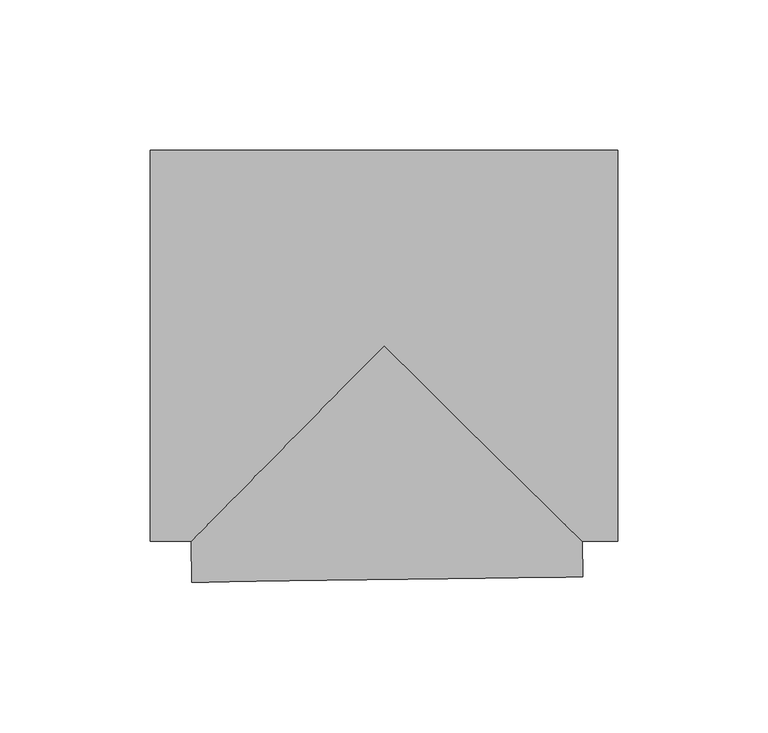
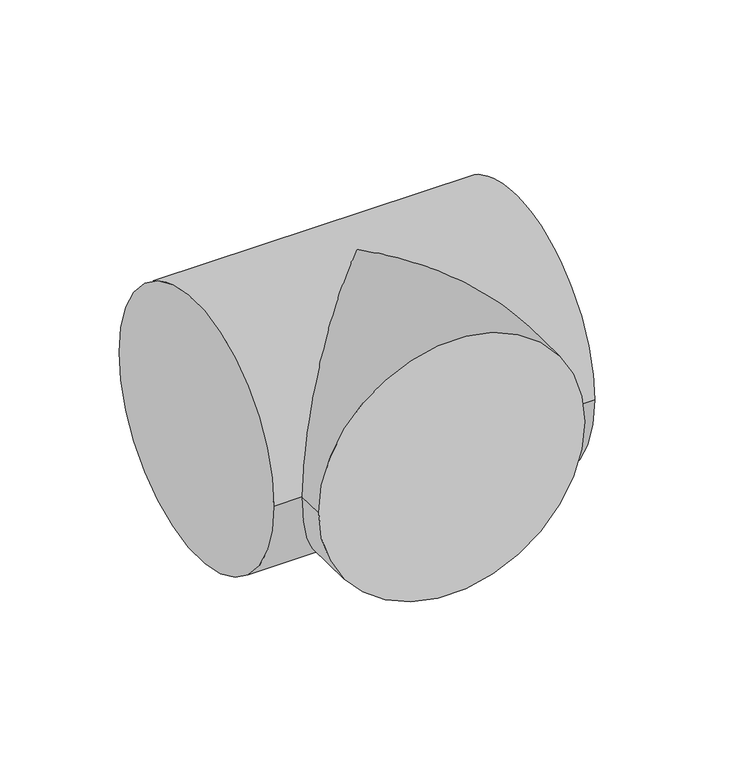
"""IFC4 building model written with IfcOpenShell, lengths in millimetres: pipe fitting geometry, M_Te - Genérica : Estándar."""

from ifc_helpers import new_model, si_unit, frame, origin, place, context, project, spatial, circle_curve, ellipse_curve, source, transform, mapped, element, save
from ifc_brep_helpers import plane_surface, cylinder_surface, advanced_brep


def pipe_fitting_4fffcfea(model_context):
    return source(origin(), model_context, "Body", "AdvancedBrep", [
        advanced_brep(
        [(-77.7875, -65.0875, 0.0), (-77.7875, 65.0875, 0.0), (77.7875, -65.0875, 0.0), (77.7875, 65.0875, 0.0), (-64.1800547, -65.0875, 0.0), (0.0, 0.0, 65.0875), (66.0077758, -65.0875, 0.0), (0.0, 0.0, -65.0875), (-63.9890182, -78.6936043, 0.0), (66.1731526, -76.8660633, 0.0)],
        [
            (0, 1, circle_curve(frame((-77.7875, 0.0, 0.0), z_axis=(-1.0, 0.0, 0.0), x_axis=(0.0, 1.0, 0.0)), 65.0875)),
            (1, 0, circle_curve(frame((-77.7875, 0.0, 0.0), z_axis=(-1.0, 0.0, 0.0), x_axis=(0.0, 1.0, 0.0)), 65.0875)),
            (2, 3, circle_curve(frame((77.7875, 0.0, 0.0), z_axis=(1.0, 0.0, 0.0), x_axis=(0.0, 1.0, 0.0)), 65.0875)),
            (3, 2, circle_curve(frame((77.7875, 0.0, 0.0), z_axis=(1.0, 0.0, 0.0), x_axis=(0.0, 1.0, 0.0)), 65.0875)),
            (0, 4),
            (4, 5, ellipse_curve(frame((0.0, 0.0, 0.0), z_axis=(-0.7120530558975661, 0.7021256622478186, 0.0), x_axis=(-0.7021256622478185, -0.7120530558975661, 0.0)), 91.4082167, 65.0875)),
            (5, 6, ellipse_curve(frame((0.0, 0.0, 0.0), z_axis=(0.7021256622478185, 0.7120530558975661, 0.0), x_axis=(-0.7120530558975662, 0.7021256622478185, 0.0)), 92.7006425, 65.0875)),
            (6, 2),
            (3, 1),
            (6, 7, ellipse_curve(frame((0.0, 0.0, 0.0), z_axis=(0.7021256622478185, 0.7120530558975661, 0.0), x_axis=(-0.7120530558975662, 0.7021256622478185, 0.0)), 92.7006425, 65.0875)),
            (7, 4, ellipse_curve(frame((0.0, 0.0, 0.0), z_axis=(-0.7120530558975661, 0.7021256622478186, 0.0), x_axis=(-0.7021256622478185, -0.7120530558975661, 0.0)), 91.4082167, 65.0875)),
            (8, 9, circle_curve(frame((1.0920672, -77.7798338, 0.0), z_axis=(0.014039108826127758, -0.999901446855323, 0.0), x_axis=(0.999901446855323, 0.014039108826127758, 0.0)), 65.0875)),
            (9, 8, circle_curve(frame((1.0920672, -77.7798338, 0.0), z_axis=(0.014039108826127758, -0.999901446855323, 0.0), x_axis=(0.999901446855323, 0.014039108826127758, 0.0)), 65.0875)),
            (9, 6),
            (4, 8),
        ],
        [
            plane_surface(frame((-77.7875, 0.0, 0.0), z_axis=(-1.0, 0.0, 0.0), x_axis=(0.0, 0.0, 1.0))),
            plane_surface(frame((77.7875, 0.0, 0.0), z_axis=(1.0, 0.0, 0.0), x_axis=(0.0, 0.0, 1.0))),
            cylinder_surface(frame((-77.7875, 0.0, 0.0), z_axis=(-1.0, 0.0, 0.0), x_axis=(0.0, 1.0, 0.0)), 65.0875),
            plane_surface(frame((1.0920672, -77.7798338, 0.0), z_axis=(0.014039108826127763, -0.999901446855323, 0.0), x_axis=(0.0, 0.0, 1.0))),
            cylinder_surface(frame((0.0, 0.0, 0.0), z_axis=(-0.014039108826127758, 0.999901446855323, 0.0), x_axis=(0.999901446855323, 0.014039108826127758, 0.0)), 65.0875),
        ],
        [
            (0, [[1, 2]]),
            (1, [[3, 4]]),
            (2, [[-1, 5, 6, 7, 8, -4, 9]]),
            (2, [[-2, -9, -3, -8, 10, 11, -5]]),
            (3, [[12, 13]]),
            (4, [[-13, 14, -7, -6, 15]]),
            (4, [[-12, -15, -11, -10, -14]]),
        ],
    ),
    ])


if __name__ == "__main__":
    model = new_model("IFC4")
    model_context = context("Model", 3, world=origin())
    ifc_project = project(units=[si_unit("LENGTHUNIT", "METRE", prefix="MILLI")], contexts=[model_context])
    site = spatial("IfcSite", under=ifc_project)
    building = spatial("IfcBuilding", under=site)
    placement = place(None, origin())
    pipe_fitting_shape = pipe_fitting_4fffcfea(model_context)
    element("IfcPipeFitting", 1, ObjectType="M_Te - Genérica : Estándar", at=placement, inside=building, context=model_context, shape_type="MappedRepresentation", body=[
        mapped(pipe_fitting_shape, transform((0.0, 0.0, 0.0), x_axis=(1.0, 0.0, 0.0), y_axis=(0.0, 1.0, 0.0), z_axis=(0.0, 0.0, 1.0))),
    ])
    save(model, "model.ifc")
